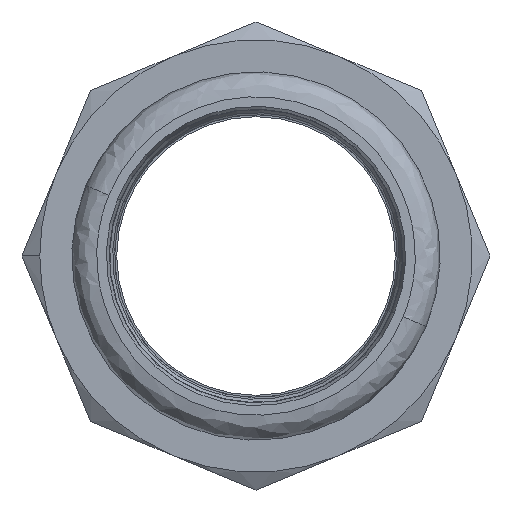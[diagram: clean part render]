
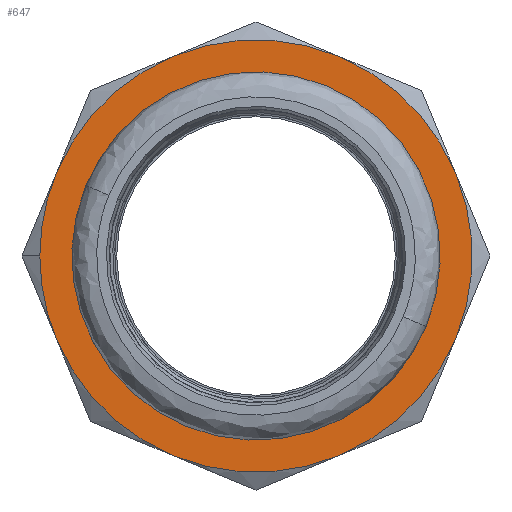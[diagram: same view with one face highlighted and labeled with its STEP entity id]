
A CAD part, left-side view. The second image highlights one B-rep face of the part: STEP entity #647.
In plain terms, the highlighted planar face has unit normal (-1, 0, 0) as drawn and (0, 1, 0) by its records, which use the part's own axes.
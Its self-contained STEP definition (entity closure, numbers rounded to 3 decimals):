
#72 = DIRECTION ( 'NONE',  ( 1., 0., 0. ) ) ;
#91 = CIRCLE ( 'NONE', #2778, 19.65 ) ;
#106 = CARTESIAN_POINT ( 'NONE',  ( 0., 21., 0. ) ) ;
#112 = AXIS2_PLACEMENT_3D ( 'NONE', #2974, #572, #4202 ) ;
#175 = DIRECTION ( 'NONE',  ( 1., 0., 0. ) ) ;
#194 = VERTEX_POINT ( 'NONE', #924 ) ;
#228 = CIRCLE ( 'NONE', #2781, 26. ) ;
#375 = DIRECTION ( 'NONE',  ( 0., 1., 0. ) ) ;
#392 = EDGE_CURVE ( 'NONE', #1880, #1825, #831, .T. ) ;
#425 = DIRECTION ( 'NONE',  ( 0., 1., 0. ) ) ;
#572 = DIRECTION ( 'NONE',  ( 0., 1., 0. ) ) ;
#595 = PLANE ( 'NONE',  #3224 ) ;
#630 = DIRECTION ( 'NONE',  ( 1., 0., 0. ) ) ;
#644 = CARTESIAN_POINT ( 'NONE',  ( 24.021, 21., 9.95 ) ) ;
#647 = ADVANCED_FACE ( 'NONE', ( #3999, #2060 ), #595, .T. ) ;
#730 = ORIENTED_EDGE ( 'NONE', *, *, #848, .T. ) ;
#831 = CIRCLE ( 'NONE', #2292, 26. ) ;
#848 = EDGE_CURVE ( 'NONE', #1504, #2488, #228, .T. ) ;
#924 = CARTESIAN_POINT ( 'NONE',  ( 24.021, 21., -9.95 ) ) ;
#1111 = CIRCLE ( 'NONE', #2697, 26. ) ;
#1149 = EDGE_CURVE ( 'NONE', #4668, #2792, #3664, .T. ) ;
#1251 = CARTESIAN_POINT ( 'NONE',  ( 0., 21., 0. ) ) ;
#1259 = DIRECTION ( 'NONE',  ( 1., 0., 0. ) ) ;
#1474 = ORIENTED_EDGE ( 'NONE', *, *, #3259, .T. ) ;
#1489 = VERTEX_POINT ( 'NONE', #644 ) ;
#1504 = VERTEX_POINT ( 'NONE', #2692 ) ;
#1519 = ORIENTED_EDGE ( 'NONE', *, *, #4471, .T. ) ;
#1528 = DIRECTION ( 'NONE',  ( 1., 0., 0. ) ) ;
#1611 = DIRECTION ( 'NONE',  ( 0., 1., 0. ) ) ;
#1627 = DIRECTION ( 'NONE',  ( 1., 0., 0. ) ) ;
#1630 = CIRCLE ( 'NONE', #3080, 26. ) ;
#1729 = ORIENTED_EDGE ( 'NONE', *, *, #3154, .T. ) ;
#1784 = EDGE_CURVE ( 'NONE', #1489, #4123, #4132, .T. ) ;
#1825 = VERTEX_POINT ( 'NONE', #4454 ) ;
#1835 = DIRECTION ( 'NONE',  ( 0., 1., 0. ) ) ;
#1843 = DIRECTION ( 'NONE',  ( 0., 0., 1. ) ) ;
#1845 = CARTESIAN_POINT ( 'NONE',  ( 26., 21., 0. ) ) ;
#1880 = VERTEX_POINT ( 'NONE', #5327 ) ;
#1886 = CARTESIAN_POINT ( 'NONE',  ( 0., 21., 0. ) ) ;
#2060 = FACE_BOUND ( 'NONE', #4291, .T. ) ;
#2066 = ORIENTED_EDGE ( 'NONE', *, *, #2538, .T. ) ;
#2119 = AXIS2_PLACEMENT_3D ( 'NONE', #2208, #4627, #175 ) ;
#2208 = CARTESIAN_POINT ( 'NONE',  ( 0., 21., 0. ) ) ;
#2220 = CARTESIAN_POINT ( 'NONE',  ( 0., 21., 0. ) ) ;
#2224 = AXIS2_PLACEMENT_3D ( 'NONE', #106, #3827, #3390 ) ;
#2261 = AXIS2_PLACEMENT_3D ( 'NONE', #4017, #2743, #1528 ) ;
#2292 = AXIS2_PLACEMENT_3D ( 'NONE', #3258, #375, #1259 ) ;
#2410 = ORIENTED_EDGE ( 'NONE', *, *, #4510, .T. ) ;
#2419 = DIRECTION ( 'NONE',  ( 1., 0., 0. ) ) ;
#2488 = VERTEX_POINT ( 'NONE', #5097 ) ;
#2538 = EDGE_CURVE ( 'NONE', #4123, #194, #2646, .T. ) ;
#2591 = VERTEX_POINT ( 'NONE', #4789 ) ;
#2630 = AXIS2_PLACEMENT_3D ( 'NONE', #3816, #4612, #72 ) ;
#2644 = DIRECTION ( 'NONE',  ( 1., 0., 0. ) ) ;
#2646 = CIRCLE ( 'NONE', #2119, 26. ) ;
#2665 = DIRECTION ( 'NONE',  ( 0., -1., 0. ) ) ;
#2692 = CARTESIAN_POINT ( 'NONE',  ( -9.95, 21., 24.021 ) ) ;
#2697 = AXIS2_PLACEMENT_3D ( 'NONE', #2220, #3047, #2644 ) ;
#2743 = DIRECTION ( 'NONE',  ( 0., 1., 0. ) ) ;
#2778 = AXIS2_PLACEMENT_3D ( 'NONE', #4249, #2665, #1843 ) ;
#2781 = AXIS2_PLACEMENT_3D ( 'NONE', #1886, #3104, #630 ) ;
#2792 = VERTEX_POINT ( 'NONE', #3665 ) ;
#2824 = EDGE_CURVE ( 'NONE', #194, #5302, #3892, .T. ) ;
#2974 = CARTESIAN_POINT ( 'NONE',  ( 0., 21., 0. ) ) ;
#3047 = DIRECTION ( 'NONE',  ( 0., 1., 0. ) ) ;
#3054 = CIRCLE ( 'NONE', #112, 26. ) ;
#3080 = AXIS2_PLACEMENT_3D ( 'NONE', #1251, #425, #2419 ) ;
#3104 = DIRECTION ( 'NONE',  ( 0., 1., 0. ) ) ;
#3154 = EDGE_CURVE ( 'NONE', #1825, #2591, #1630, .T. ) ;
#3224 = AXIS2_PLACEMENT_3D ( 'NONE', #4278, #1835, #4726 ) ;
#3258 = CARTESIAN_POINT ( 'NONE',  ( 0., 21., 0. ) ) ;
#3259 = EDGE_CURVE ( 'NONE', #2488, #1489, #5357, .T. ) ;
#3390 = DIRECTION ( 'NONE',  ( 0., 0., 1. ) ) ;
#3664 = CIRCLE ( 'NONE', #2224, 19.65 ) ;
#3665 = CARTESIAN_POINT ( 'NONE',  ( 0., 21., 19.65 ) ) ;
#3763 = CARTESIAN_POINT ( 'NONE',  ( 9.95, 21., -24.021 ) ) ;
#3816 = CARTESIAN_POINT ( 'NONE',  ( 0., 21., 0. ) ) ;
#3827 = DIRECTION ( 'NONE',  ( 0., -1., 0. ) ) ;
#3892 = CIRCLE ( 'NONE', #5003, 26. ) ;
#3983 = EDGE_LOOP ( 'NONE', ( #1729, #2410, #730, #1474, #5004, #2066, #4646, #4176, #4691 ) ) ;
#3999 = FACE_OUTER_BOUND ( 'NONE', #3983, .T. ) ;
#4002 = EDGE_CURVE ( 'NONE', #5302, #1880, #3054, .T. ) ;
#4017 = CARTESIAN_POINT ( 'NONE',  ( 0., 21., 0. ) ) ;
#4123 = VERTEX_POINT ( 'NONE', #1845 ) ;
#4132 = CIRCLE ( 'NONE', #2261, 26. ) ;
#4176 = ORIENTED_EDGE ( 'NONE', *, *, #4002, .T. ) ;
#4202 = DIRECTION ( 'NONE',  ( 1., 0., 0. ) ) ;
#4249 = CARTESIAN_POINT ( 'NONE',  ( 0., 21., 0. ) ) ;
#4278 = CARTESIAN_POINT ( 'NONE',  ( 0., 21., 0. ) ) ;
#4291 = EDGE_LOOP ( 'NONE', ( #1519, #5257 ) ) ;
#4341 = CARTESIAN_POINT ( 'NONE',  ( 0., 21., -19.65 ) ) ;
#4454 = CARTESIAN_POINT ( 'NONE',  ( -24.021, 21., -9.95 ) ) ;
#4471 = EDGE_CURVE ( 'NONE', #2792, #4668, #91, .T. ) ;
#4510 = EDGE_CURVE ( 'NONE', #2591, #1504, #1111, .T. ) ;
#4612 = DIRECTION ( 'NONE',  ( 0., 1., 0. ) ) ;
#4627 = DIRECTION ( 'NONE',  ( 0., 1., 0. ) ) ;
#4646 = ORIENTED_EDGE ( 'NONE', *, *, #2824, .T. ) ;
#4668 = VERTEX_POINT ( 'NONE', #4341 ) ;
#4691 = ORIENTED_EDGE ( 'NONE', *, *, #392, .T. ) ;
#4726 = DIRECTION ( 'NONE',  ( 0., 0., 1. ) ) ;
#4789 = CARTESIAN_POINT ( 'NONE',  ( -24.021, 21., 9.95 ) ) ;
#4928 = CARTESIAN_POINT ( 'NONE',  ( 0., 21., 0. ) ) ;
#5003 = AXIS2_PLACEMENT_3D ( 'NONE', #4928, #1611, #1627 ) ;
#5004 = ORIENTED_EDGE ( 'NONE', *, *, #1784, .T. ) ;
#5097 = CARTESIAN_POINT ( 'NONE',  ( 9.95, 21., 24.021 ) ) ;
#5257 = ORIENTED_EDGE ( 'NONE', *, *, #1149, .T. ) ;
#5302 = VERTEX_POINT ( 'NONE', #3763 ) ;
#5327 = CARTESIAN_POINT ( 'NONE',  ( -9.95, 21., -24.021 ) ) ;
#5357 = CIRCLE ( 'NONE', #2630, 26. ) ;
